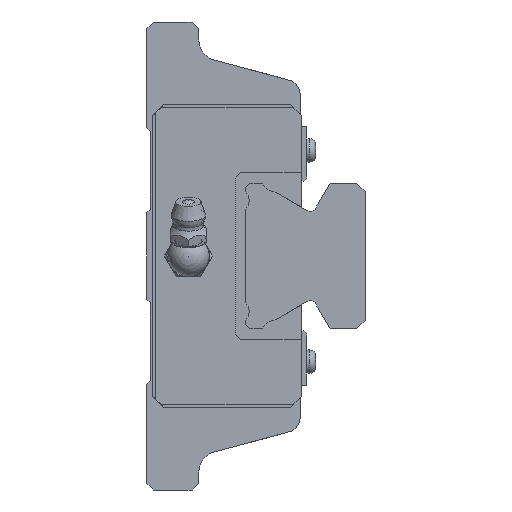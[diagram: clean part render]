
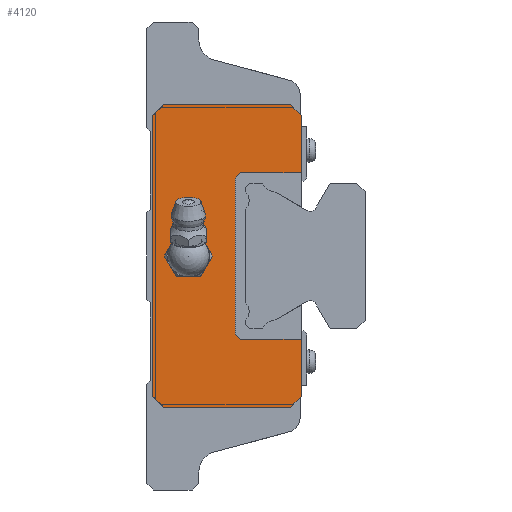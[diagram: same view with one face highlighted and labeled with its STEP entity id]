
A CAD part, left-side view. The second image highlights one B-rep face of the part: STEP entity #4120.
In plain terms, the highlighted planar face has unit normal (-1, 0, 0).
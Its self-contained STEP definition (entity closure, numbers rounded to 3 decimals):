
#120=LINE('',#6185,#512);
#135=LINE('',#6216,#527);
#142=LINE('',#6230,#534);
#146=LINE('',#6237,#538);
#156=LINE('',#6258,#548);
#159=LINE('',#6263,#551);
#167=LINE('',#6275,#559);
#209=LINE('',#6365,#601);
#215=LINE('',#6377,#607);
#351=LINE('',#6751,#743);
#352=LINE('',#6754,#744);
#353=LINE('',#6755,#745);
#354=LINE('',#6757,#746);
#355=LINE('',#6759,#747);
#512=VECTOR('',#4880,1000.);
#527=VECTOR('',#4897,1000.);
#534=VECTOR('',#4908,1000.);
#538=VECTOR('',#4914,1000.);
#548=VECTOR('',#4926,1000.);
#551=VECTOR('',#4931,1000.);
#559=VECTOR('',#4947,1000.);
#601=VECTOR('',#5017,1000.);
#607=VECTOR('',#5025,1000.);
#743=VECTOR('',#5347,1000.);
#744=VECTOR('',#5348,1000.);
#745=VECTOR('',#5349,1000.);
#746=VECTOR('',#5350,1000.);
#747=VECTOR('',#5351,1000.);
#920=PLANE('',#4462);
#1113=CIRCLE('',#4463,3.);
#1885=ORIENTED_EDGE('',*,*,#2714,.T.);
#1886=ORIENTED_EDGE('',*,*,#2715,.T.);
#1887=ORIENTED_EDGE('',*,*,#2716,.T.);
#1888=ORIENTED_EDGE('',*,*,#2531,.F.);
#1889=ORIENTED_EDGE('',*,*,#2464,.F.);
#1890=ORIENTED_EDGE('',*,*,#2460,.F.);
#1891=ORIENTED_EDGE('',*,*,#2453,.F.);
#1892=ORIENTED_EDGE('',*,*,#2485,.F.);
#1893=ORIENTED_EDGE('',*,*,#2438,.F.);
#1894=ORIENTED_EDGE('',*,*,#2477,.F.);
#1895=ORIENTED_EDGE('',*,*,#2474,.F.);
#1896=ORIENTED_EDGE('',*,*,#2537,.F.);
#1897=ORIENTED_EDGE('',*,*,#2717,.T.);
#1898=ORIENTED_EDGE('',*,*,#2718,.T.);
#1899=ORIENTED_EDGE('',*,*,#2719,.T.);
#2438=EDGE_CURVE('',#2967,#2968,#120,.T.);
#2453=EDGE_CURVE('',#2982,#2983,#135,.T.);
#2460=EDGE_CURVE('',#2983,#2988,#142,.T.);
#2464=EDGE_CURVE('',#2988,#2990,#146,.T.);
#2474=EDGE_CURVE('',#2999,#3000,#156,.T.);
#2477=EDGE_CURVE('',#3000,#2967,#159,.T.);
#2485=EDGE_CURVE('',#2968,#2982,#167,.T.);
#2531=EDGE_CURVE('',#2990,#3035,#209,.T.);
#2537=EDGE_CURVE('',#3039,#2999,#215,.T.);
#2714=EDGE_CURVE('',#3162,#3162,#1113,.T.);
#2715=EDGE_CURVE('',#3163,#3164,#351,.T.);
#2716=EDGE_CURVE('',#3164,#3035,#352,.T.);
#2717=EDGE_CURVE('',#3039,#3165,#353,.T.);
#2718=EDGE_CURVE('',#3165,#3166,#354,.T.);
#2719=EDGE_CURVE('',#3166,#3163,#355,.T.);
#2967=VERTEX_POINT('',#6184);
#2968=VERTEX_POINT('',#6186);
#2982=VERTEX_POINT('',#6215);
#2983=VERTEX_POINT('',#6217);
#2988=VERTEX_POINT('',#6231);
#2990=VERTEX_POINT('',#6238);
#2999=VERTEX_POINT('',#6257);
#3000=VERTEX_POINT('',#6259);
#3035=VERTEX_POINT('',#6366);
#3039=VERTEX_POINT('',#6376);
#3162=VERTEX_POINT('',#6750);
#3163=VERTEX_POINT('',#6752);
#3164=VERTEX_POINT('',#6753);
#3165=VERTEX_POINT('',#6756);
#3166=VERTEX_POINT('',#6758);
#3449=EDGE_LOOP('',(#1885));
#3450=EDGE_LOOP('',(#1886,#1887,#1888,#1889,#1890,#1891,#1892,#1893,#1894,
#1895,#1896,#1897,#1898,#1899));
#3788=FACE_BOUND('',#3449,.T.);
#3789=FACE_BOUND('',#3450,.T.);
#4120=ADVANCED_FACE('',(#3788,#3789),#920,.F.);
#4462=AXIS2_PLACEMENT_3D('',#6748,#5343,#5344);
#4463=AXIS2_PLACEMENT_3D('',#6749,#5345,#5346);
#4880=DIRECTION('',(0.,0.707,0.707));
#4897=DIRECTION('',(0.,-0.707,0.707));
#4908=DIRECTION('',(0.,-1.,0.));
#4914=DIRECTION('',(0.,-0.707,-0.707));
#4926=DIRECTION('',(0.,0.707,-0.707));
#4931=DIRECTION('',(0.,1.,0.));
#4947=DIRECTION('',(0.,0.,1.));
#5017=DIRECTION('',(0.,0.,-1.));
#5025=DIRECTION('',(0.,0.,-1.));
#5343=DIRECTION('',(1.,0.,0.));
#5344=DIRECTION('',(0.,0.,-1.));
#5345=DIRECTION('',(1.,0.,0.));
#5346=DIRECTION('',(0.,0.,-1.));
#5347=DIRECTION('',(0.,-0.707,0.707));
#5348=DIRECTION('',(0.,-1.,0.));
#5349=DIRECTION('',(0.,1.,0.));
#5350=DIRECTION('',(0.,0.707,0.707));
#5351=DIRECTION('',(0.,0.,1.));
#6184=CARTESIAN_POINT('',(-31.95,29.35,-29.05));
#6185=CARTESIAN_POINT('',(-31.95,29.35,-29.05));
#6186=CARTESIAN_POINT('',(-31.95,31.35,-27.05));
#6215=CARTESIAN_POINT('',(-31.95,31.35,27.05));
#6216=CARTESIAN_POINT('',(-31.95,31.35,27.05));
#6217=CARTESIAN_POINT('',(-31.95,29.35,29.05));
#6230=CARTESIAN_POINT('',(-31.95,29.35,29.05));
#6231=CARTESIAN_POINT('',(-31.95,4.8,29.05));
#6237=CARTESIAN_POINT('',(-31.95,4.8,29.05));
#6238=CARTESIAN_POINT('',(-31.95,2.8,27.05));
#6257=CARTESIAN_POINT('',(-31.95,2.8,-27.05));
#6258=CARTESIAN_POINT('',(-31.95,2.8,-27.05));
#6259=CARTESIAN_POINT('',(-31.95,4.8,-29.05));
#6263=CARTESIAN_POINT('',(-31.95,4.8,-29.05));
#6275=CARTESIAN_POINT('',(-31.95,31.35,-27.05));
#6365=CARTESIAN_POINT('',(-31.95,2.8,27.05));
#6366=CARTESIAN_POINT('',(-31.95,2.8,16.));
#6376=CARTESIAN_POINT('',(-31.95,2.8,-16.));
#6377=CARTESIAN_POINT('',(-31.95,2.8,27.05));
#6748=CARTESIAN_POINT('',(-31.95,0.,0.));
#6749=CARTESIAN_POINT('',(-31.95,24.5,0.));
#6750=CARTESIAN_POINT('',(-31.95,24.5,-3.));
#6751=CARTESIAN_POINT('',(-31.95,15.5,15.));
#6752=CARTESIAN_POINT('',(-31.95,15.5,15.));
#6753=CARTESIAN_POINT('',(-31.95,14.5,16.));
#6754=CARTESIAN_POINT('',(-31.95,14.5,16.));
#6755=CARTESIAN_POINT('',(-31.95,2.8,-16.));
#6756=CARTESIAN_POINT('',(-31.95,14.5,-16.));
#6757=CARTESIAN_POINT('',(-31.95,14.5,-16.));
#6758=CARTESIAN_POINT('',(-31.95,15.5,-15.));
#6759=CARTESIAN_POINT('',(-31.95,15.5,-15.));
